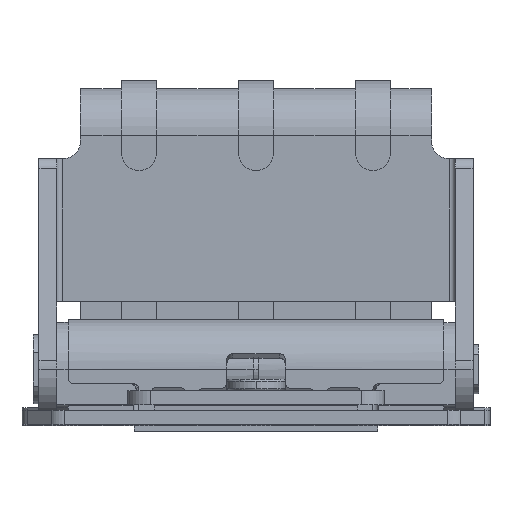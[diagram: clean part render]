
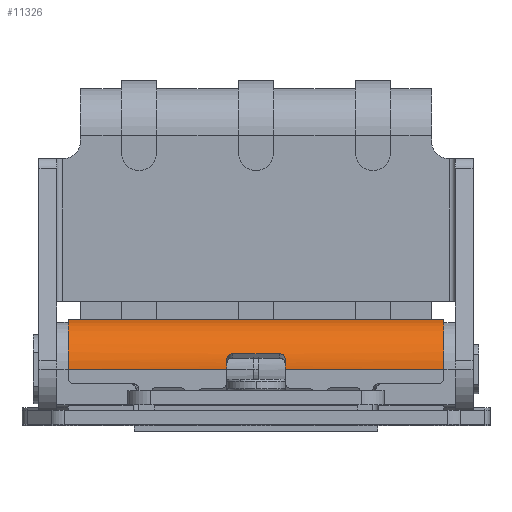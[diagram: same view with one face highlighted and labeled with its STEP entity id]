
A CAD part, top view. The second image highlights one B-rep face of the part: STEP entity #11326.
In plain terms, the highlighted cylindrical face has radius 4.25 mm (diameter 8.5 mm), a partial arc.
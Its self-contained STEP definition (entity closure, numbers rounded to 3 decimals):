
#136 = ORIENTED_EDGE ( 'NONE', *, *, #12262, .T. ) ;
#1008 = AXIS2_PLACEMENT_3D ( 'NONE', #7964, #11179, #9093 ) ;
#1032 = EDGE_CURVE ( 'NONE', #5071, #10962, #2927, .T. ) ;
#1119 = EDGE_CURVE ( 'NONE', #3295, #7623, #6250, .T. ) ;
#1141 = CARTESIAN_POINT ( 'NONE',  ( -16.05, 0., -19.75 ) ) ;
#1423 = CARTESIAN_POINT ( 'NONE',  ( 2., 1.324, -19.961 ) ) ;
#1548 = CARTESIAN_POINT ( 'NONE',  ( 20., -4.25, -24. ) ) ;
#2145 = EDGE_CURVE ( 'NONE', #7935, #13639, #11399, .T. ) ;
#2178 = DIRECTION ( 'NONE',  ( -1., 0., 0. ) ) ;
#2238 = EDGE_CURVE ( 'NONE', #7623, #5071, #9102, .T. ) ;
#2360 = CARTESIAN_POINT ( 'NONE',  ( -16.05, -4.25, -24. ) ) ;
#2798 = CARTESIAN_POINT ( 'NONE',  ( 20., 0., -19.75 ) ) ;
#2799 = DIRECTION ( 'NONE',  ( -1., 0., 0. ) ) ;
#2927 = LINE ( 'NONE', #11396, #9626 ) ;
#2950 = CARTESIAN_POINT ( 'NONE',  ( -2.5, 0., -24. ) ) ;
#3059 = AXIS2_PLACEMENT_3D ( 'NONE', #12728, #4044, #5156 ) ;
#3064 = ORIENTED_EDGE ( 'NONE', *, *, #1032, .T. ) ;
#3067 = CARTESIAN_POINT ( 'NONE',  ( 2.5, 0.969, -19.86 ) ) ;
#3115 = CARTESIAN_POINT ( 'NONE',  ( -2.133, 1.323, -19.961 ) ) ;
#3178 = CARTESIAN_POINT ( 'NONE',  ( -2.446, 1.094, -19.892 ) ) ;
#3295 = VERTEX_POINT ( 'NONE', #1423 ) ;
#3710 = LINE ( 'NONE', #1548, #13287 ) ;
#3769 = EDGE_CURVE ( 'NONE', #6199, #7935, #4808, .T. ) ;
#3913 = LINE ( 'NONE', #12464, #10773 ) ;
#3932 = DIRECTION ( 'NONE',  ( 0., 0., 1. ) ) ;
#4044 = DIRECTION ( 'NONE',  ( 1., 0., 0. ) ) ;
#4475 = ORIENTED_EDGE ( 'NONE', *, *, #13387, .T. ) ;
#4808 = CIRCLE ( 'NONE', #1008, 4.25 ) ;
#4901 = VERTEX_POINT ( 'NONE', #13138 ) ;
#5071 = VERTEX_POINT ( 'NONE', #7032 ) ;
#5156 = DIRECTION ( 'NONE',  ( 0., 0., 1. ) ) ;
#5160 = DIRECTION ( 'NONE',  ( 1., 0., 0. ) ) ;
#5657 = CIRCLE ( 'NONE', #8561, 4.25 ) ;
#5806 = B_SPLINE_CURVE_WITH_KNOTS ( 'NONE', 3,
 ( #6324, #12640, #3178, #7238, #3115, #7373 ),
 .UNSPECIFIED., .F., .F.,
 ( 4, 2, 4 ),
 ( 0., 0.5, 1. ),
 .UNSPECIFIED. ) ;
#5851 = CARTESIAN_POINT ( 'NONE',  ( -2.5, 0., -19.75 ) ) ;
#6082 = CARTESIAN_POINT ( 'NONE',  ( 16.05, -4.25, -24. ) ) ;
#6091 = DIRECTION ( 'NONE',  ( 0., 0., 1. ) ) ;
#6199 = VERTEX_POINT ( 'NONE', #2360 ) ;
#6250 = B_SPLINE_CURVE_WITH_KNOTS ( 'NONE', 3,
 ( #12725, #8386, #12661, #11603, #3067, #6344 ),
 .UNSPECIFIED., .F., .F.,
 ( 4, 2, 4 ),
 ( 0., 0.5, 1. ),
 .UNSPECIFIED. ) ;
#6324 = CARTESIAN_POINT ( 'NONE',  ( -2.5, 0.839, -19.834 ) ) ;
#6344 = CARTESIAN_POINT ( 'NONE',  ( 2.5, 0.839, -19.834 ) ) ;
#6407 = VECTOR ( 'NONE', #12178, 1000. ) ;
#6452 = EDGE_CURVE ( 'NONE', #7767, #4901, #5806, .T. ) ;
#6481 = CARTESIAN_POINT ( 'NONE',  ( 2.5, 0.839, -19.834 ) ) ;
#7032 = CARTESIAN_POINT ( 'NONE',  ( 2.5, 0., -19.75 ) ) ;
#7147 = DIRECTION ( 'NONE',  ( -1., 0., 0. ) ) ;
#7162 = VERTEX_POINT ( 'NONE', #6082 ) ;
#7238 = CARTESIAN_POINT ( 'NONE',  ( -2.262, 1.272, -19.944 ) ) ;
#7356 = ORIENTED_EDGE ( 'NONE', *, *, #3769, .T. ) ;
#7373 = CARTESIAN_POINT ( 'NONE',  ( -2., 1.324, -19.961 ) ) ;
#7623 = VERTEX_POINT ( 'NONE', #6481 ) ;
#7767 = VERTEX_POINT ( 'NONE', #11032 ) ;
#7935 = VERTEX_POINT ( 'NONE', #1141 ) ;
#7964 = CARTESIAN_POINT ( 'NONE',  ( -16.05, 0., -24. ) ) ;
#8000 = FACE_OUTER_BOUND ( 'NONE', #13398, .T. ) ;
#8386 = CARTESIAN_POINT ( 'NONE',  ( 2.133, 1.323, -19.961 ) ) ;
#8475 = DIRECTION ( 'NONE',  ( -1., 0., 0. ) ) ;
#8561 = AXIS2_PLACEMENT_3D ( 'NONE', #2950, #7147, #6091 ) ;
#8586 = AXIS2_PLACEMENT_3D ( 'NONE', #12808, #2178, #11760 ) ;
#9093 = DIRECTION ( 'NONE',  ( 0., 0., 1. ) ) ;
#9102 = CIRCLE ( 'NONE', #3059, 4.25 ) ;
#9522 = CARTESIAN_POINT ( 'NONE',  ( 20., 0., -24. ) ) ;
#9626 = VECTOR ( 'NONE', #10338, 1000. ) ;
#9658 = ORIENTED_EDGE ( 'NONE', *, *, #11535, .T. ) ;
#10338 = DIRECTION ( 'NONE',  ( 1., 0., 0. ) ) ;
#10658 = CARTESIAN_POINT ( 'NONE',  ( 16.05, 0., -19.75 ) ) ;
#10773 = VECTOR ( 'NONE', #5160, 1000. ) ;
#10962 = VERTEX_POINT ( 'NONE', #10658 ) ;
#11032 = CARTESIAN_POINT ( 'NONE',  ( -2.5, 0.839, -19.834 ) ) ;
#11179 = DIRECTION ( 'NONE',  ( 1., 0., 0. ) ) ;
#11326 = ADVANCED_FACE ( 'NONE', ( #8000 ), #12478, .T. ) ;
#11396 = CARTESIAN_POINT ( 'NONE',  ( 20., 0., -19.75 ) ) ;
#11399 = LINE ( 'NONE', #2798, #6407 ) ;
#11423 = EDGE_CURVE ( 'NONE', #13639, #7767, #5657, .T. ) ;
#11535 = EDGE_CURVE ( 'NONE', #10962, #7162, #12605, .T. ) ;
#11603 = CARTESIAN_POINT ( 'NONE',  ( 2.446, 1.095, -19.892 ) ) ;
#11760 = DIRECTION ( 'NONE',  ( 0., 0., 1. ) ) ;
#11786 = ORIENTED_EDGE ( 'NONE', *, *, #6452, .T. ) ;
#12178 = DIRECTION ( 'NONE',  ( 1., 0., 0. ) ) ;
#12262 = EDGE_CURVE ( 'NONE', #7162, #6199, #3710, .T. ) ;
#12374 = AXIS2_PLACEMENT_3D ( 'NONE', #9522, #8475, #3932 ) ;
#12464 = CARTESIAN_POINT ( 'NONE',  ( 20., 1.324, -19.961 ) ) ;
#12478 = CYLINDRICAL_SURFACE ( 'NONE', #12374, 4.25 ) ;
#12605 = CIRCLE ( 'NONE', #8586, 4.25 ) ;
#12640 = CARTESIAN_POINT ( 'NONE',  ( -2.5, 0.969, -19.86 ) ) ;
#12661 = CARTESIAN_POINT ( 'NONE',  ( 2.261, 1.272, -19.944 ) ) ;
#12725 = CARTESIAN_POINT ( 'NONE',  ( 2., 1.324, -19.961 ) ) ;
#12728 = CARTESIAN_POINT ( 'NONE',  ( 2.5, 0., -24. ) ) ;
#12808 = CARTESIAN_POINT ( 'NONE',  ( 16.05, 0., -24. ) ) ;
#13019 = ORIENTED_EDGE ( 'NONE', *, *, #1119, .T. ) ;
#13021 = ORIENTED_EDGE ( 'NONE', *, *, #11423, .T. ) ;
#13138 = CARTESIAN_POINT ( 'NONE',  ( -2., 1.324, -19.961 ) ) ;
#13237 = ORIENTED_EDGE ( 'NONE', *, *, #2238, .T. ) ;
#13287 = VECTOR ( 'NONE', #2799, 1000. ) ;
#13387 = EDGE_CURVE ( 'NONE', #4901, #3295, #3913, .T. ) ;
#13398 = EDGE_LOOP ( 'NONE', ( #7356, #13803, #13021, #11786, #4475, #13019, #13237, #3064, #9658, #136 ) ) ;
#13639 = VERTEX_POINT ( 'NONE', #5851 ) ;
#13803 = ORIENTED_EDGE ( 'NONE', *, *, #2145, .T. ) ;
